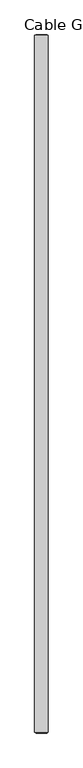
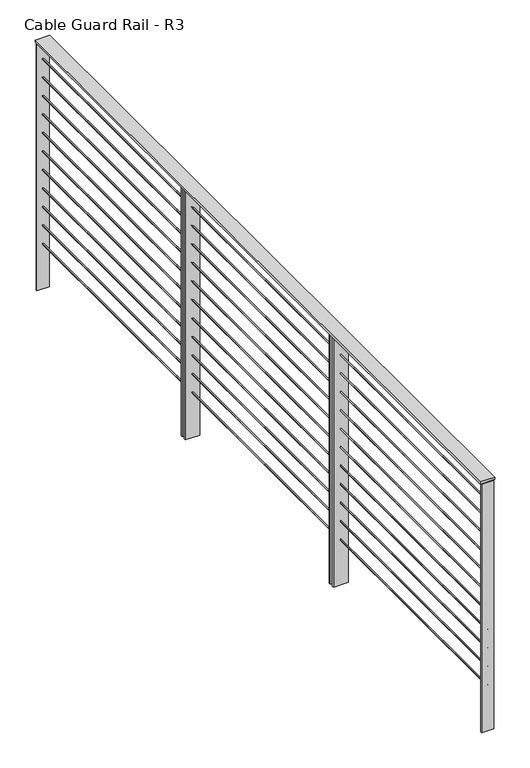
"""IFC4 building model written with IfcOpenShell, lengths in millimetres: railing geometry, Cable Guard Rail - R3."""

from ifc_helpers import new_model, si_unit, point, frame, frame_2d, origin, place, context, project, spatial, polyline, circle_curve, trimmed, segment, composite_curve, outline, extrude, source, transform, mapped, element, save


def cable_guard_rail_r3_578a048f(model_context):
    return source(origin(), model_context, "Body", "SweptSolid", [
        extrude(outline(polyline([(22390.8044304, 175351.2936306), (22467.0044304, 175351.2936306), (22467.0044304, 171347.2246554), (22390.8044304, 171347.2246554), (22390.8044304, 175351.2936306)])), frame((0.0, 0.0, 294017.7), z_axis=(0.0, 0.0, 1.0), x_axis=(1.0, 0.0, 0.0)), (0.0, 0.0, 1.0), 12.7),
        extrude(outline(composite_curve([segment(trimmed(circle_curve(frame_2d((293916.1, 22428.9044304)), 3.175), [point((293916.1, 22432.0794304))], [point((293916.1, 22425.7294304))], False, "CARTESIAN"), True, "CONTINUOUS"), segment(trimmed(circle_curve(frame_2d((293916.1, 22428.9044304)), 3.175), [point((293916.1, 22425.7294304))], [point((293916.1, 22432.0794304))], False, "CARTESIAN"), True, "CONTINUOUS")], self_intersect=False)), frame((0.0, 171347.2246554, 0.0), z_axis=(0.0, 1.0, 0.0), x_axis=(0.0, 0.0, 1.0)), (0.0, 0.0, 1.0), 4004.0689752),
        extrude(outline(composite_curve([segment(trimmed(circle_curve(frame_2d((293814.5, 22428.9044304)), 3.175), [point((293814.5, 22432.0794304))], [point((293814.5, 22425.7294304))], False, "CARTESIAN"), True, "CONTINUOUS"), segment(trimmed(circle_curve(frame_2d((293814.5, 22428.9044304)), 3.175), [point((293814.5, 22425.7294304))], [point((293814.5, 22432.0794304))], False, "CARTESIAN"), True, "CONTINUOUS")], self_intersect=False)), frame((0.0, 171347.2246554, 0.0), z_axis=(0.0, 1.0, 0.0), x_axis=(0.0, 0.0, 1.0)), (0.0, 0.0, 1.0), 4004.0689752),
        extrude(outline(composite_curve([segment(trimmed(circle_curve(frame_2d((293712.9, 22428.9044304)), 3.175), [point((293712.9, 22432.0794304))], [point((293712.9, 22425.7294304))], False, "CARTESIAN"), True, "CONTINUOUS"), segment(trimmed(circle_curve(frame_2d((293712.9, 22428.9044304)), 3.175), [point((293712.9, 22425.7294304))], [point((293712.9, 22432.0794304))], False, "CARTESIAN"), True, "CONTINUOUS")], self_intersect=False)), frame((0.0, 171347.2246554, 0.0), z_axis=(0.0, 1.0, 0.0), x_axis=(0.0, 0.0, 1.0)), (0.0, 0.0, 1.0), 4004.0689752),
        extrude(outline(composite_curve([segment(trimmed(circle_curve(frame_2d((293611.3, 22428.9044304)), 3.175), [point((293611.3, 22432.0794304))], [point((293611.3, 22425.7294304))], False, "CARTESIAN"), True, "CONTINUOUS"), segment(trimmed(circle_curve(frame_2d((293611.3, 22428.9044304)), 3.175), [point((293611.3, 22425.7294304))], [point((293611.3, 22432.0794304))], False, "CARTESIAN"), True, "CONTINUOUS")], self_intersect=False)), frame((0.0, 171347.2246554, 0.0), z_axis=(0.0, 1.0, 0.0), x_axis=(0.0, 0.0, 1.0)), (0.0, 0.0, 1.0), 4004.0689752),
        extrude(outline(composite_curve([segment(trimmed(circle_curve(frame_2d((293509.7, 22428.9044304)), 3.175), [point((293509.7, 22432.0794304))], [point((293509.7, 22425.7294304))], False, "CARTESIAN"), True, "CONTINUOUS"), segment(trimmed(circle_curve(frame_2d((293509.7, 22428.9044304)), 3.175), [point((293509.7, 22425.7294304))], [point((293509.7, 22432.0794304))], False, "CARTESIAN"), True, "CONTINUOUS")], self_intersect=False)), frame((0.0, 171347.2246554, 0.0), z_axis=(0.0, 1.0, 0.0), x_axis=(0.0, 0.0, 1.0)), (0.0, 0.0, 1.0), 4004.0689752),
        extrude(outline(composite_curve([segment(trimmed(circle_curve(frame_2d((293408.1, 22428.9044304)), 3.175), [point((293408.1, 22432.0794304))], [point((293408.1, 22425.7294304))], False, "CARTESIAN"), True, "CONTINUOUS"), segment(trimmed(circle_curve(frame_2d((293408.1, 22428.9044304)), 3.175), [point((293408.1, 22425.7294304))], [point((293408.1, 22432.0794304))], False, "CARTESIAN"), True, "CONTINUOUS")], self_intersect=False)), frame((0.0, 171347.2246554, 0.0), z_axis=(0.0, 1.0, 0.0), x_axis=(0.0, 0.0, 1.0)), (0.0, 0.0, 1.0), 4004.0689752),
        extrude(outline(composite_curve([segment(trimmed(circle_curve(frame_2d((293306.5, 22428.9044304)), 3.175), [point((293306.5, 22432.0794304))], [point((293306.5, 22425.7294304))], False, "CARTESIAN"), True, "CONTINUOUS"), segment(trimmed(circle_curve(frame_2d((293306.5, 22428.9044304)), 3.175), [point((293306.5, 22425.7294304))], [point((293306.5, 22432.0794304))], False, "CARTESIAN"), True, "CONTINUOUS")], self_intersect=False)), frame((0.0, 171347.2246554, 0.0), z_axis=(0.0, 1.0, 0.0), x_axis=(0.0, 0.0, 1.0)), (0.0, 0.0, 1.0), 4004.0689752),
        extrude(outline(composite_curve([segment(trimmed(circle_curve(frame_2d((293204.9, 22428.9044304)), 3.175), [point((293204.9, 22432.0794304))], [point((293204.9, 22425.7294304))], False, "CARTESIAN"), True, "CONTINUOUS"), segment(trimmed(circle_curve(frame_2d((293204.9, 22428.9044304)), 3.175), [point((293204.9, 22425.7294304))], [point((293204.9, 22432.0794304))], False, "CARTESIAN"), True, "CONTINUOUS")], self_intersect=False)), frame((0.0, 171347.2246554, 0.0), z_axis=(0.0, 1.0, 0.0), x_axis=(0.0, 0.0, 1.0)), (0.0, 0.0, 1.0), 4004.0689752),
        extrude(outline(composite_curve([segment(trimmed(circle_curve(frame_2d((293103.3, 22428.9044304)), 3.175), [point((293103.3, 22432.0794304))], [point((293103.3, 22425.7294304))], False, "CARTESIAN"), True, "CONTINUOUS"), segment(trimmed(circle_curve(frame_2d((293103.3, 22428.9044304)), 3.175), [point((293103.3, 22425.7294304))], [point((293103.3, 22432.0794304))], False, "CARTESIAN"), True, "CONTINUOUS")], self_intersect=False)), frame((0.0, 171347.2246554, 0.0), z_axis=(0.0, 1.0, 0.0), x_axis=(0.0, 0.0, 1.0)), (0.0, 0.0, 1.0), 4004.0689752),
        extrude(outline(composite_curve([segment(trimmed(circle_curve(frame_2d((293001.7, 22428.9044304)), 3.175), [point((293001.7, 22432.0794304))], [point((293001.7, 22425.7294304))], False, "CARTESIAN"), True, "CONTINUOUS"), segment(trimmed(circle_curve(frame_2d((293001.7, 22428.9044304)), 3.175), [point((293001.7, 22425.7294304))], [point((293001.7, 22432.0794304))], False, "CARTESIAN"), True, "CONTINUOUS")], self_intersect=False)), frame((0.0, 171347.2246554, 0.0), z_axis=(0.0, 1.0, 0.0), x_axis=(0.0, 0.0, 1.0)), (0.0, 0.0, 1.0), 4004.0689752),
        extrude(outline(composite_curve([segment(trimmed(circle_curve(frame_2d((292900.1, 22428.9044304)), 3.175), [point((292900.1, 22432.0794304))], [point((292900.1, 22425.7294304))], False, "CARTESIAN"), True, "CONTINUOUS"), segment(trimmed(circle_curve(frame_2d((292900.1, 22428.9044304)), 3.175), [point((292900.1, 22425.7294304))], [point((292900.1, 22432.0794304))], False, "CARTESIAN"), True, "CONTINUOUS")], self_intersect=False)), frame((0.0, 171347.2246554, 0.0), z_axis=(0.0, 1.0, 0.0), x_axis=(0.0, 0.0, 1.0)), (0.0, 0.0, 1.0), 4004.0689752),
        extrude(outline(polyline([(22467.0044304, 172704.1393138), (22467.0044304, 172694.6143138), (22390.8044304, 172694.6143138), (22390.8044304, 172704.1393138), (22467.0044304, 172704.1393138)])), frame((0.0, 0.0, 292652.45), z_axis=(0.0, 0.0, 1.0), x_axis=(1.0, 0.0, 0.0)), (0.0, 0.0, 1.0), 1365.25),
        extrude(outline(polyline([(22467.0044304, 172675.5643138), (22467.0044304, 172666.0875492), (22390.8044304, 172666.0875492), (22390.8044304, 172675.5643138), (22467.0044304, 172675.5643138)])), frame((0.0, 0.0, 292652.45), z_axis=(0.0, 0.0, 1.0), x_axis=(1.0, 0.0, 0.0)), (0.0, 0.0, 1.0), 1365.25),
        extrude(outline(polyline([(22467.0044304, 174038.8289722), (22467.0044304, 174029.3039722), (22390.8044304, 174029.3039722), (22390.8044304, 174038.8289722), (22467.0044304, 174038.8289722)])), frame((0.0, 0.0, 292652.45), z_axis=(0.0, 0.0, 1.0), x_axis=(1.0, 0.0, 0.0)), (0.0, 0.0, 1.0), 1365.25),
        extrude(outline(polyline([(22467.0044304, 174010.2539722), (22467.0044304, 174000.7772076), (22390.8044304, 174000.7772076), (22390.8044304, 174010.2539722), (22467.0044304, 174010.2539722)])), frame((0.0, 0.0, 292652.45), z_axis=(0.0, 0.0, 1.0), x_axis=(1.0, 0.0, 0.0)), (0.0, 0.0, 1.0), 1365.25),
        extrude(outline(polyline([(22460.6544304, 171350.3996554), (22460.6544304, 171344.0496554), (22397.1544304, 171344.0496554), (22397.1544304, 171350.3996554), (22460.6544304, 171350.3996554)])), frame((0.0, 0.0, 292652.45), z_axis=(0.0, 0.0, 1.0), x_axis=(1.0, 0.0, 0.0)), (0.0, 0.0, 1.0), 1365.25),
        extrude(outline(polyline([(22460.6544304, 175354.4686306), (22460.6544304, 175348.1186306), (22397.1544304, 175348.1186306), (22397.1544304, 175354.4686306), (22460.6544304, 175354.4686306)])), frame((0.0, 0.0, 292652.45), z_axis=(0.0, 0.0, 1.0), x_axis=(1.0, 0.0, 0.0)), (0.0, 0.0, 1.0), 1365.25),
    ])


if __name__ == "__main__":
    model = new_model("IFC4")
    model_context = context("Model", 3, world=origin())
    ifc_project = project(units=[si_unit("LENGTHUNIT", "METRE", prefix="MILLI")], contexts=[model_context])
    site = spatial("IfcSite", under=ifc_project)
    building = spatial("IfcBuilding", under=site)
    placement = place(None, origin())
    cable_guard_rail_r3_shape = cable_guard_rail_r3_578a048f(model_context)
    element("IfcRailing", 1, ObjectType="Cable Guard Rail - R3", at=placement, inside=building, context=model_context, shape_type="MappedRepresentation", body=[
        mapped(cable_guard_rail_r3_shape, transform((0.0, 0.0, 0.0), x_axis=(1.0, 0.0, 0.0), y_axis=(0.0, 1.0, 0.0), z_axis=(0.0, 0.0, 1.0))),
    ])
    save(model, "model.ifc")
